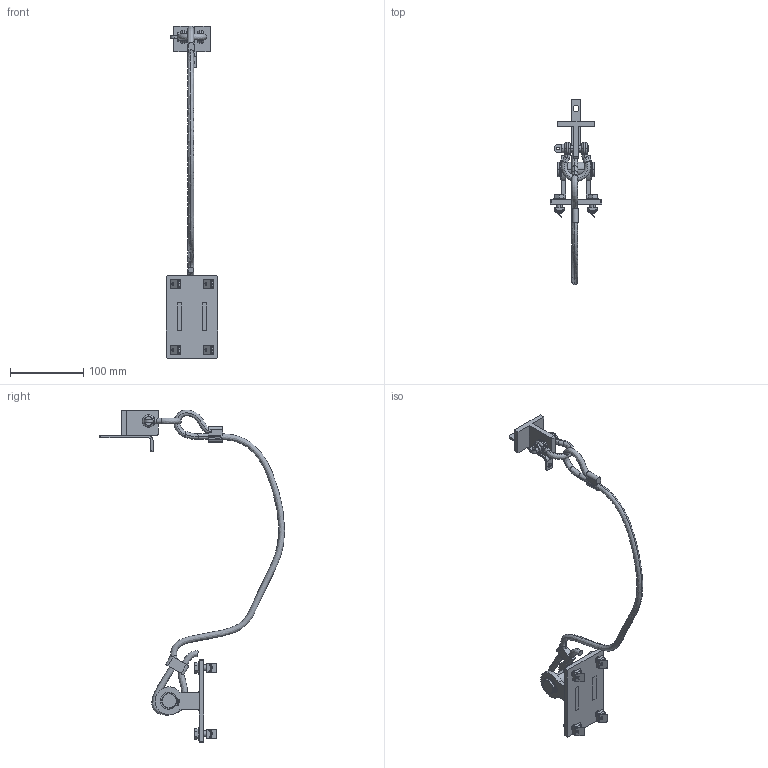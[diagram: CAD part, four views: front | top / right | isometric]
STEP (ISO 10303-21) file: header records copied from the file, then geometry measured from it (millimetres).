
FILE_DESCRIPTION (( 'STEP AP203' ), '1' );
FILE_NAME ('900.100.122.STEP', '2018-02-27T08:15:32', ( '' ), ( '' ), 'SwSTEP 2.0', 'SolidWorks 2016', '' );
FILE_SCHEMA (( 'CONFIG_CONTROL_DESIGN' ));
Length unit declared in the file: millimetre
Products named in the file (12): 084.302.000 DADI ALUSIC 13x13-1_084.302.009; GRILLO  A LIRA; VITI TE UNI 5739_M8x20 UNI 5739; 900.100.118; 900.100.008; 900.100.122; RONDELLE UNI 6592_8.4x17 UNI 6592; Parte2^900.100.122; VITE GRILLO A LIRA; 900.100.031_Default<A macchina>; 900.100.021; circlip for shafts normal_din_Circlip DIN 471 - 20 x 1.2
Assembly tree (21 placements, depth 3):
  900.100.122
    900.100.008
    900.100.118
      900.100.021
      circlip for shafts normal_din_Circlip DIN 471 - 20 x 1.2  x2
      900.100.031_Default<A macchina>
      RONDELLE UNI 6592_8.4x17 UNI 6592  x4
      VITI TE UNI 5739_M8x20 UNI 5739  x4
      084.302.000 DADI ALUSIC 13x13-1_084.302.009  x4
    Parte2^900.100.122
    GRILLO  A LIRA
    VITE GRILLO A LIRA
Bounding box: 70 x 252.15 x 452 mm (x, y, z)
Volume: 169197 mm3; surface area: 79545.8 mm2
Topology: 29 solids, 29 shells, 484 faces, 1126 edges, 707 vertices
Faces by surface type: plane 217, cylinder 147, cone 46, bspline 38, torus 36
Entity records: 13930 total; most frequent: CARTESIAN_POINT 5436, DIRECTION 1485, ORIENTED_EDGE 1428, EDGE_CURVE 714, AXIS2_PLACEMENT_3D 583, VERTEX_POINT 449, EDGE_LOOP 339, VECTOR 319
